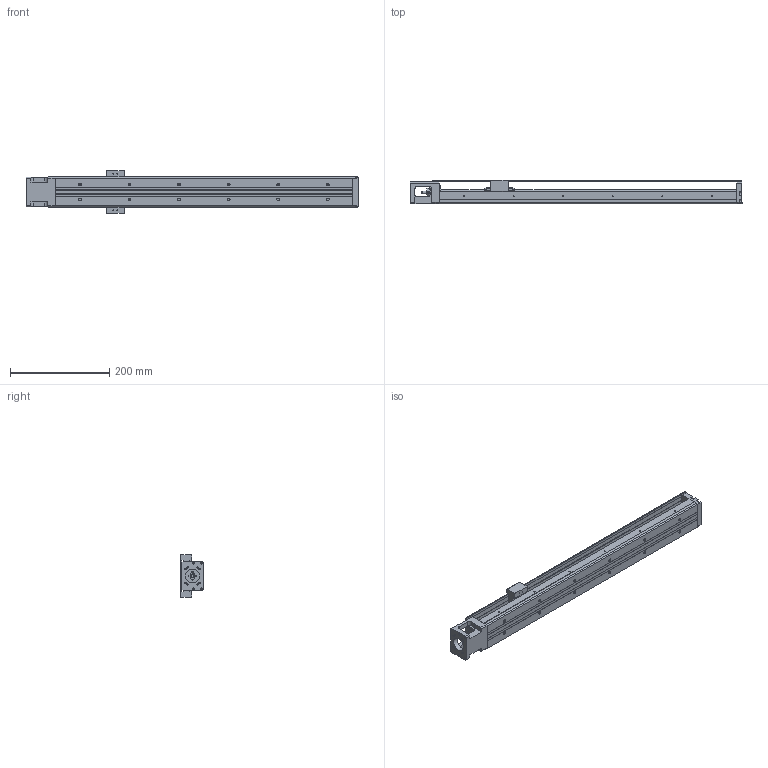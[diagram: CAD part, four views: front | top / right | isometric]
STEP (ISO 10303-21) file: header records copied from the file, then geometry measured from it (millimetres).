
FILE_DESCRIPTION(/* description */ (''),/* implementation_level */ '2;1');
FILE_NAME(/* name */ 'KP33S-600-C.stp',/* time_stamp */ '2020-06-04T18:19:03+08:00',/* author */ (''),/* organization */ (''),/* preprocessor_version */ 'ST-DEVELOPER v14',/* originating_system */ 'SIEMENS PLM Software NX 8.0',/* authorisation */ '');
FILE_SCHEMA (('AUTOMOTIVE_DESIGN { 1 0 10303 214 3 1 1 1 }'));
Length unit declared in the file: millimetre
Products named in the file (1): model1
Bounding box: 670 x 47.95 x 86 mm (x, y, z)
Volume: 819029.4 mm3; surface area: 298886.9 mm2
Topology: 8 solids, 18 shells, 804 faces, 2027 edges, 1342 vertices
Faces by surface type: plane 473, cylinder 237, bspline 31, extrusion 25, cone 24, torus 12, revolution 2
Full cylindrical faces by diameter (mm): 1.6 x5, 1.65 x4, 2.15 x10, 2.42 x4, 2.45 x10, 2.5 x20, 3.2 x4, 3.3 x4, 3.4 x4, 3.5 x14, 3.969 x2, 4 x4, 4.001 x2, 4.135 x2, 4.2 x2, 5.5 x12, 6 x5, 7.6 x1, 8 x6, 9.5 x12, 10.72 x6, 11.8 x2, 12 x6, 12.8 x1, 13 x2, 14 x1, 17.38 x6, 21.5 x1, 22 x4, 28 x1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
Entity records: 39695 total; most frequent: CARTESIAN_POINT 17214, DIRECTION 3656, ORIENTED_EDGE 3476, EDGE_CURVE 1738, AXIS2_PLACEMENT_3D 1306, VERTEX_POINT 1248, EDGE_LOOP 1172, VECTOR 1042
